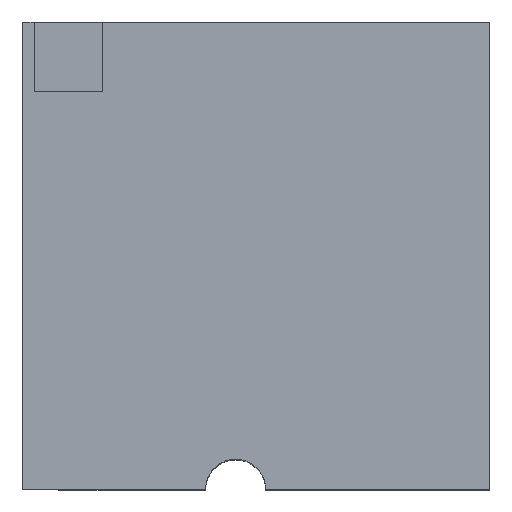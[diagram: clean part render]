
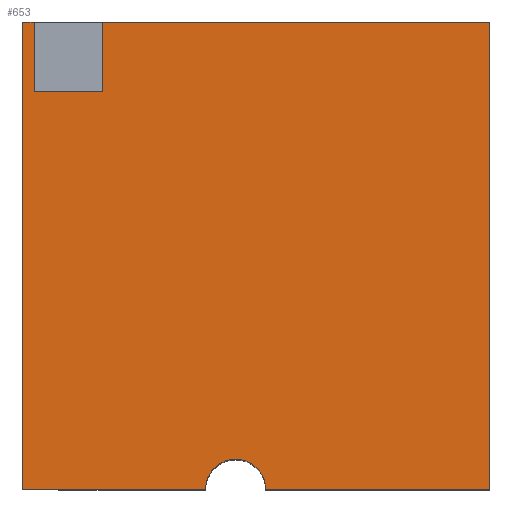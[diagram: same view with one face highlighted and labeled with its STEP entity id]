
A CAD part, top view. The second image highlights one B-rep face of the part: STEP entity #653.
In plain terms, the highlighted planar face has unit normal (0, 0, 1).
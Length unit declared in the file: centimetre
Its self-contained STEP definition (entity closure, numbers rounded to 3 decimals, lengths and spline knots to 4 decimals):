
#9 = EDGE_CURVE ( 'NONE', #26, #442, #664, .T. ) ;
#12 = LINE ( 'NONE', #257, #631 ) ;
#17 = CIRCLE ( 'NONE', #134, 64.2367 ) ;
#23 = DIRECTION ( 'NONE',  ( 0., 0., 1. ) ) ;
#26 = VERTEX_POINT ( 'NONE', #55 ) ;
#29 = ORIENTED_EDGE ( 'NONE', *, *, #417, .F. ) ;
#44 = CARTESIAN_POINT ( 'NONE',  ( 1000., 0., 1000. ) ) ;
#45 = VERTEX_POINT ( 'NONE', #650 ) ;
#53 = DIRECTION ( 'NONE',  ( -1., 0., 0. ) ) ;
#54 = ORIENTED_EDGE ( 'NONE', *, *, #369, .T. ) ;
#55 = CARTESIAN_POINT ( 'NONE',  ( 25.3898, 851.7762, 1000. ) ) ;
#57 = VECTOR ( 'NONE', #140, 100. ) ;
#88 = VERTEX_POINT ( 'NONE', #109 ) ;
#93 = ORIENTED_EDGE ( 'NONE', *, *, #644, .T. ) ;
#95 = VECTOR ( 'NONE', #431, 100. ) ;
#109 = CARTESIAN_POINT ( 'NONE',  ( 25.3898, 1000., 1000. ) ) ;
#112 = LINE ( 'NONE', #580, #658 ) ;
#134 = AXIS2_PLACEMENT_3D ( 'NONE', #206, #23, #438 ) ;
#138 = DIRECTION ( 'NONE',  ( 1., 0., 0. ) ) ;
#140 = DIRECTION ( 'NONE',  ( 0., -1., 0. ) ) ;
#146 = VECTOR ( 'NONE', #488, 100. ) ;
#151 = VERTEX_POINT ( 'NONE', #715 ) ;
#155 = CARTESIAN_POINT ( 'NONE',  ( 1000., 1000., 1000. ) ) ;
#171 = LINE ( 'NONE', #342, #253 ) ;
#180 = DIRECTION ( 'NONE',  ( 0., 1., 0. ) ) ;
#190 = VECTOR ( 'NONE', #53, 100. ) ;
#193 = VERTEX_POINT ( 'NONE', #366 ) ;
#196 = CARTESIAN_POINT ( 'NONE',  ( 171.4385, 1000., 1000. ) ) ;
#200 = CARTESIAN_POINT ( 'NONE',  ( 0., 0., 1000. ) ) ;
#204 = CARTESIAN_POINT ( 'NONE',  ( 1000., 1000., 1000. ) ) ;
#206 = CARTESIAN_POINT ( 'NONE',  ( 456.2602, 0., 1000. ) ) ;
#228 = CARTESIAN_POINT ( 'NONE',  ( 171.4385, 851.7762, 1000. ) ) ;
#246 = ORIENTED_EDGE ( 'NONE', *, *, #766, .T. ) ;
#250 = CARTESIAN_POINT ( 'NONE',  ( 0., 0., 1000. ) ) ;
#253 = VECTOR ( 'NONE', #180, 100. ) ;
#257 = CARTESIAN_POINT ( 'NONE',  ( 0., 0., 1000. ) ) ;
#263 = VECTOR ( 'NONE', #138, 100. ) ;
#289 = DIRECTION ( 'NONE',  ( -1., 0., 0. ) ) ;
#295 = CARTESIAN_POINT ( 'NONE',  ( 0., 1000., 1000. ) ) ;
#303 = CARTESIAN_POINT ( 'NONE',  ( 25.3898, 851.7762, 1000. ) ) ;
#306 = LINE ( 'NONE', #303, #146 ) ;
#313 = LINE ( 'NONE', #250, #95 ) ;
#332 = AXIS2_PLACEMENT_3D ( 'NONE', #200, #652, #434 ) ;
#342 = CARTESIAN_POINT ( 'NONE',  ( 171.4385, 851.7762, 1000. ) ) ;
#356 = ORIENTED_EDGE ( 'NONE', *, *, #441, .T. ) ;
#362 = PLANE ( 'NONE',  #332 ) ;
#366 = CARTESIAN_POINT ( 'NONE',  ( 0., 1000., 1000. ) ) ;
#369 = EDGE_CURVE ( 'NONE', #88, #193, #759, .T. ) ;
#417 = EDGE_CURVE ( 'NONE', #442, #563, #171, .T. ) ;
#418 = FACE_OUTER_BOUND ( 'NONE', #576, .T. ) ;
#422 = VECTOR ( 'NONE', #567, 100. ) ;
#431 = DIRECTION ( 'NONE',  ( 1., 0., 0. ) ) ;
#434 = DIRECTION ( 'NONE',  ( 1., 0., 0. ) ) ;
#438 = DIRECTION ( 'NONE',  ( 1., 0., 0. ) ) ;
#441 = EDGE_CURVE ( 'NONE', #717, #563, #112, .T. ) ;
#442 = VERTEX_POINT ( 'NONE', #228 ) ;
#447 = ORIENTED_EDGE ( 'NONE', *, *, #9, .F. ) ;
#481 = ORIENTED_EDGE ( 'NONE', *, *, #593, .T. ) ;
#485 = ORIENTED_EDGE ( 'NONE', *, *, #733, .F. ) ;
#488 = DIRECTION ( 'NONE',  ( 0., 1., 0. ) ) ;
#491 = DIRECTION ( 'NONE',  ( 1., 0., 0. ) ) ;
#498 = CARTESIAN_POINT ( 'NONE',  ( 0., 1000., 1000. ) ) ;
#507 = VERTEX_POINT ( 'NONE', #44 ) ;
#512 = ORIENTED_EDGE ( 'NONE', *, *, #538, .T. ) ;
#538 = EDGE_CURVE ( 'NONE', #26, #88, #306, .T. ) ;
#563 = VERTEX_POINT ( 'NONE', #196 ) ;
#567 = DIRECTION ( 'NONE',  ( 0., 1., 0. ) ) ;
#576 = EDGE_LOOP ( 'NONE', ( #485, #93, #675, #356, #29, #447, #512, #54, #246, #481 ) ) ;
#580 = CARTESIAN_POINT ( 'NONE',  ( 0., 1000., 1000. ) ) ;
#593 = EDGE_CURVE ( 'NONE', #45, #749, #313, .T. ) ;
#617 = LINE ( 'NONE', #204, #422 ) ;
#628 = CARTESIAN_POINT ( 'NONE',  ( 392.0236, 0., 1000. ) ) ;
#631 = VECTOR ( 'NONE', #491, 100. ) ;
#644 = EDGE_CURVE ( 'NONE', #151, #507, #12, .T. ) ;
#650 = CARTESIAN_POINT ( 'NONE',  ( 0., 0., 1000. ) ) ;
#652 = DIRECTION ( 'NONE',  ( 0., 0., 1. ) ) ;
#653 = ADVANCED_FACE ( 'NONE', ( #418 ), #362, .T. ) ;
#658 = VECTOR ( 'NONE', #289, 100. ) ;
#664 = LINE ( 'NONE', #669, #263 ) ;
#669 = CARTESIAN_POINT ( 'NONE',  ( 25.3898, 851.7762, 1000. ) ) ;
#675 = ORIENTED_EDGE ( 'NONE', *, *, #703, .T. ) ;
#683 = LINE ( 'NONE', #498, #57 ) ;
#703 = EDGE_CURVE ( 'NONE', #507, #717, #617, .T. ) ;
#715 = CARTESIAN_POINT ( 'NONE',  ( 520.4969, 0., 1000. ) ) ;
#717 = VERTEX_POINT ( 'NONE', #155 ) ;
#733 = EDGE_CURVE ( 'NONE', #151, #749, #17, .T. ) ;
#749 = VERTEX_POINT ( 'NONE', #628 ) ;
#759 = LINE ( 'NONE', #295, #190 ) ;
#766 = EDGE_CURVE ( 'NONE', #193, #45, #683, .T. ) ;
